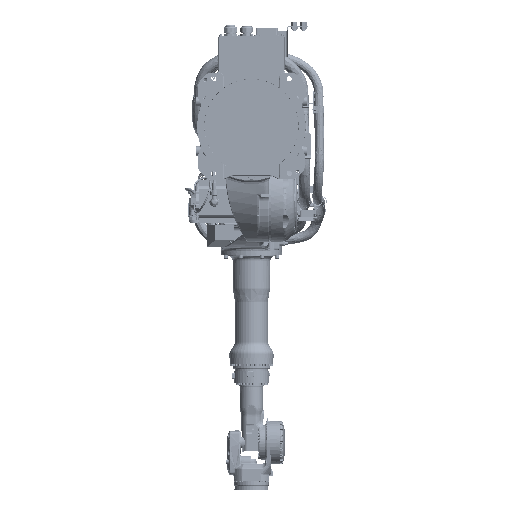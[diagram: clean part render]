
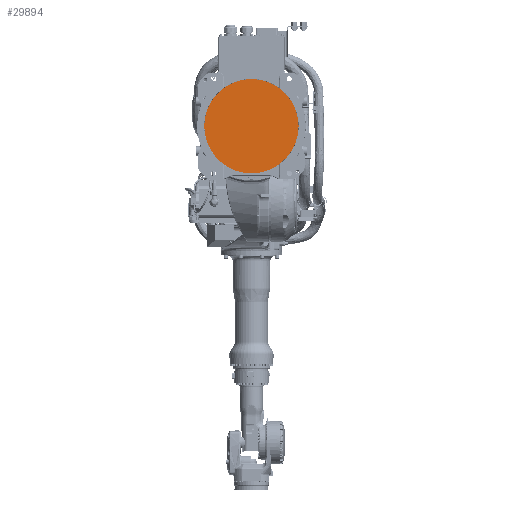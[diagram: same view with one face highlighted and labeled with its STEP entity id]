
A CAD part, front view. The second image highlights one B-rep face of the part: STEP entity #29894.
In plain terms, the highlighted planar face has unit normal (0, -1, 0).
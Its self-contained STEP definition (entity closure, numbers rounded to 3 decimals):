
#1115=CARTESIAN_POINT('',(0.,10.5,0.));
#1116=DIRECTION('',(0.,1.,0.));
#1117=DIRECTION('',(0.,0.,1.));
#1118=AXIS2_PLACEMENT_3D('',#1115,#1116,#1117);
#1120=CARTESIAN_POINT('',(0.,10.5,0.));
#1121=DIRECTION('',(0.,1.,0.));
#1122=DIRECTION('',(0.,0.,-1.));
#1123=AXIS2_PLACEMENT_3D('',#1120,#1121,#1122);
#25919=CARTESIAN_POINT('',(0.,10.5,199.6));
#25920=CARTESIAN_POINT('',(0.,10.5,-199.6));
#25921=VERTEX_POINT('',#25919);
#25922=VERTEX_POINT('',#25920);
#29884=CARTESIAN_POINT('',(0.,10.5,0.));
#29885=DIRECTION('',(0.,-1.,0.));
#29886=DIRECTION('',(0.,0.,-1.));
#29887=AXIS2_PLACEMENT_3D('',#29884,#29885,#29886);
#29888=PLANE('',#29887);
#29890=ORIENTED_EDGE('',*,*,#29889,.T.);
#29891=ORIENTED_EDGE('',*,*,#29874,.T.);
#29892=EDGE_LOOP('',(#29890,#29891));
#29893=FACE_OUTER_BOUND('',#29892,.F.);
#29894=ADVANCED_FACE('',(#29893),#29888,.T.);
#1119=CIRCLE('',#1118,199.6);
#1124=CIRCLE('',#1123,199.6);
#29874=EDGE_CURVE('',#25922,#25921,#1124,.T.);
#29889=EDGE_CURVE('',#25921,#25922,#1119,.T.);
